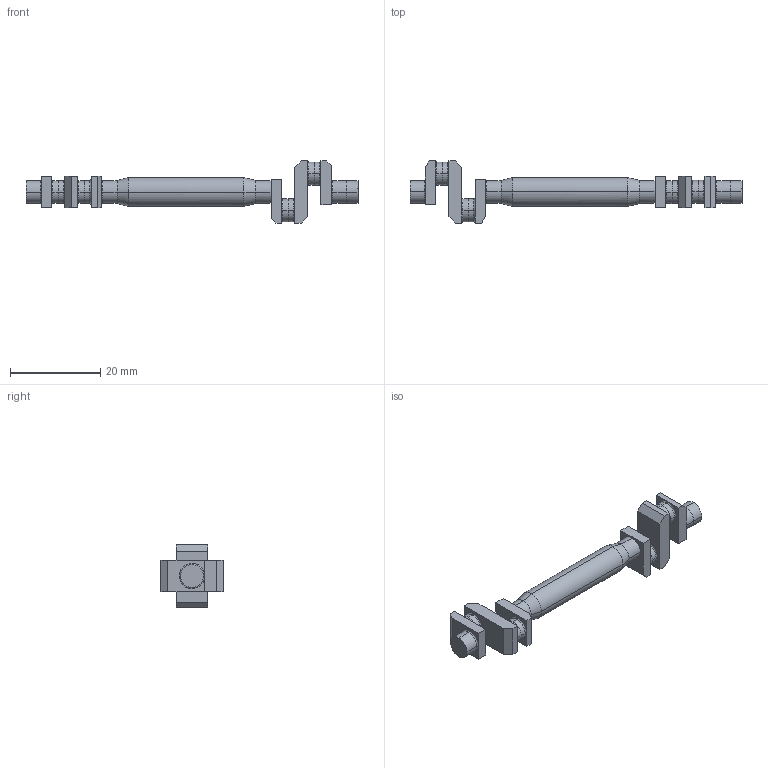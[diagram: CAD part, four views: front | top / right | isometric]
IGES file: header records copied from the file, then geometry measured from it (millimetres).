
Start section: /COM,ANSYS RELEASE  8.0    UP20030930       19:47:21    07/06/2005 /NOPR /PREP7 /TITLE, ANTYPE, 0 DOF,UX,UY,UZ, BFUNIF,TEMP,_TINY KUSE,0 TIME,0.00000000 TREF,0.00000000 ALPHAD,0.00000000 BETAD,0.00000000 DMPRAT,0.00000000 CRPLIM,0.100000000,0 CRPLIM,0.00000000,1 NCNV,1,0.00000000,0,0.00000000,0.00000000 NEQIT,0 ERESX,DEFA ACEL,0.00000000,0.00000000,0.00000000 OMEGA,0.00000000,0.00000000,0.00000000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
Global section: file name: EX01.iges; native system: ANSYS; preprocessor:   8.0      UP20030930; date: 000706.194720
Bounding box: 73.41 x 13.77 x 13.77 mm (x, y, z)
Volume: 2632.4 mm3; surface area: 3111.8 mm2
Topology: 19 solids, 19 shells, 190 faces, 413 edges, 284 vertices
Faces by surface type: bspline 190
